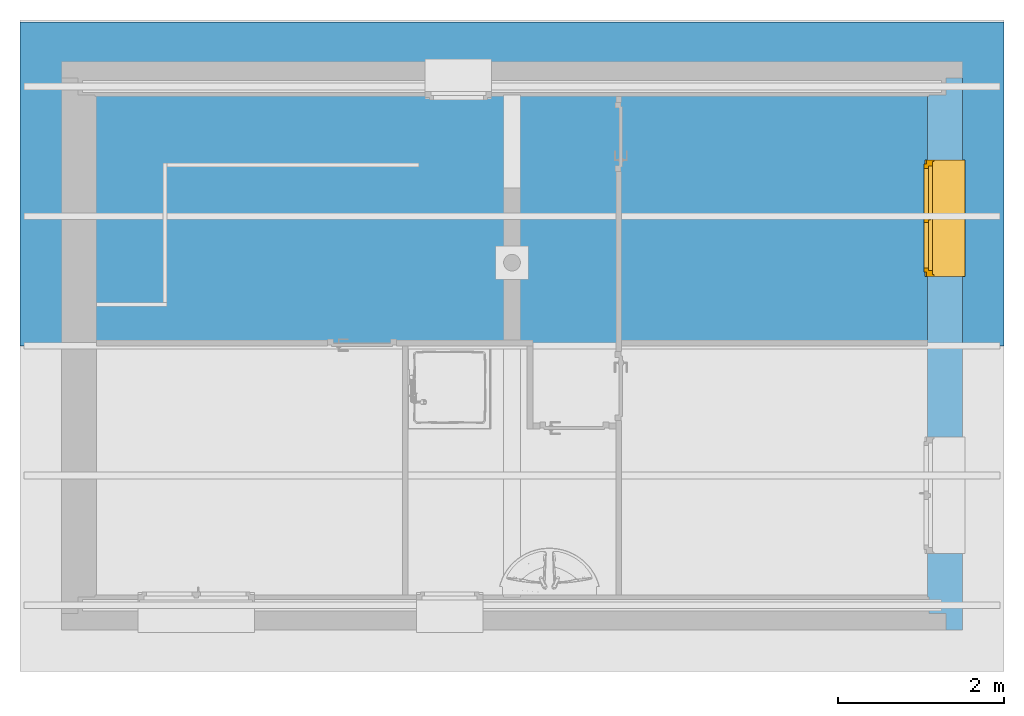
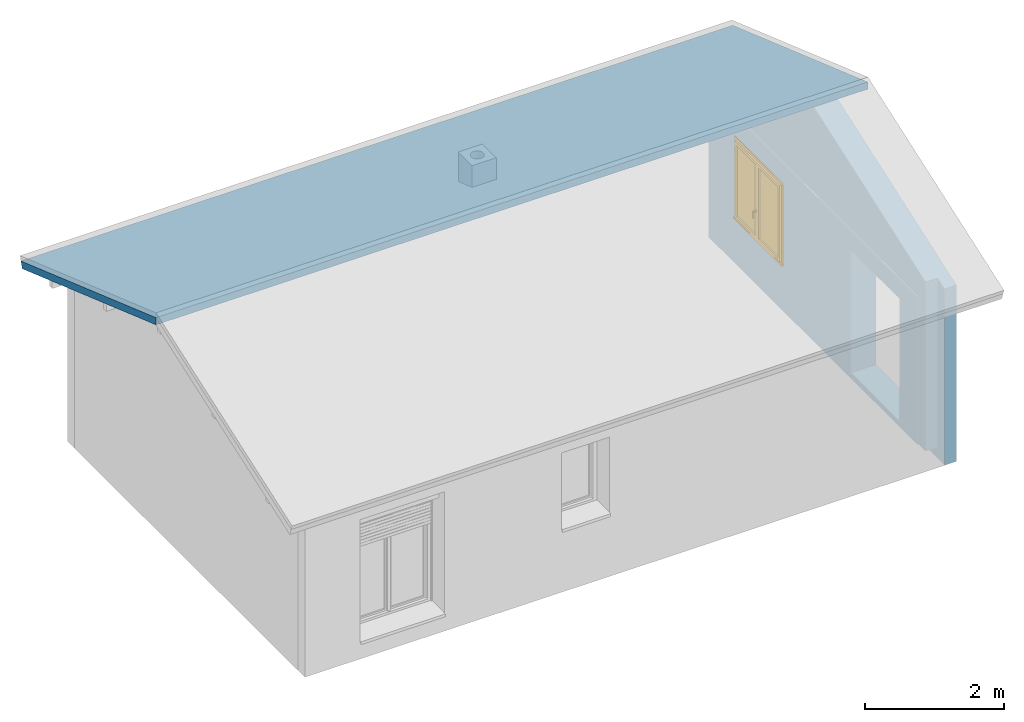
# One storey, part 7 of 7: 1 building element part, 1 window, 2 openings, 2 elements without a shape of their own, plus 1 element that does not belong to this part.
"""IFC4 building model written with IfcOpenShell, lengths in metres."""

from ifc_helpers import new_model, entity, si_unit, converted_unit, frame, origin, origin_with_axes, place, context, subcontext, project, spatial, polyline, outline, extrude, clip, bounded_halfspace, closed_shell, open_shell, faceted_brep, surface_model, source, transform, mapped, material, layer, layer_set, layer_usage, type_object, element, fill, aggregate, save


model = new_model("IFC4")

# Units and contexts
model_context = context("Model", 3, precision=1e-05, world=origin())
body_context = subcontext(model_context, "Body", "Model", "MODEL_VIEW")
ifc_project = project(units=[si_unit("LENGTHUNIT", "METRE"), si_unit("AREAUNIT", "SQUARE_METRE"), si_unit("VOLUMEUNIT", "CUBIC_METRE"), si_unit("MASSUNIT", "GRAM", prefix="KILO"), converted_unit("PLANEANGLEUNIT", "DEGREE", entity("IfcPlaneAngleMeasure", 0.0174532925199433), si_unit("PLANEANGLEUNIT", "RADIAN"), dimensions=[0, 0, 0, 0, 0, 0, 0])], contexts=[model_context])

# Building, storey
building_placement = place(None, origin())
building = spatial("IfcBuilding", under=ifc_project, at=building_placement, Name="Projet de Construction", CompositionType="ELEMENT")
storey_placement = place(building_placement, frame((0.0, 0.0, 2.8)))
storey = spatial("IfcBuildingStorey", under=building, at=storey_placement, Name="R+1", CompositionType="ELEMENT", Elevation=2.8)

# Wall, openings, window
ifc_material_1 = material()
ifc_layer_1 = layer(ifc_material_1, 0.2)
ifc_material_2 = material()
ifc_layer_2 = layer(ifc_material_2, 0.2)
ifc_material_3 = material()
ifc_layer_3 = layer(ifc_material_3, 0.02)
ifc_layer_set = layer_set([ifc_layer_1, ifc_layer_2, ifc_layer_3])
ifc_layer_usage = layer_usage(ifc_layer_set, "AXIS2", "POSITIVE", 0.0)
wall_placement = place(storey_placement, frame((3.5540625, 1.29979166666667, 0.0), z_axis=(0.0, 0.0, 1.0), x_axis=(2.05458140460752e-16, 1.0, 0.0)))
wall = element("IfcWall", 1, at=wall_placement, inside=storey, material=ifc_layer_usage, context=body_context, shape_type="Clipping", body=[
    clip(clip(clip(clip(extrude(outline(polyline([(8.62924189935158e-17, -0.42), (6.64, -0.42), (6.64, -0.22), (6.44, -0.22), (6.44, -0.02), (6.42, -0.02), (6.42, -4.52007909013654e-17), (0.4, 8.21832561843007e-17), (0.4, -0.0199999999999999), (0.2, -0.02), (0.2, -0.22), (4.52007909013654e-17, -0.22), (8.62924189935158e-17, -0.42)])), frame((-8.62924189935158e-17, 0.42, 0.0), z_axis=(0.0, 0.0, 1.0), x_axis=(1.0, 0.0, 0.0)), (0.0, 0.0, 1.0), 4.29700000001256), bounded_halfspace(frame((3.365, 0.355, 0.2), z_axis=(0.0, 0.0, 1.0), x_axis=(-2.05458140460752e-16, 1.0, 0.0)), True, origin_with_axes(), polyline([(6.44, 0.2), (6.44, 0.4), (6.42, 0.4), (6.42, 0.42), (0.4, 0.42), (0.4, 0.4), (0.199999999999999, 0.4), (0.2, 0.2), (6.44, 0.2)]))), bounded_halfspace(frame((5.5, 0.2, 3.56900000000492), z_axis=(-0.330350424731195, -1.50758855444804e-16, -0.943858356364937), x_axis=(0.943858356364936, 6.06261507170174e-17, -0.330350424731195)), True, origin_with_axes(), polyline([(3.42, -2.06827861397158e-16), (6.64, -2.01948391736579e-31), (6.64, 0.2), (6.44, 0.2), (6.44, 0.4), (3.42, 0.4), (3.42, -2.06827861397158e-16)]))), bounded_halfspace(frame((3.41, 0.41, 2.8), z_axis=(0.0, 0.0, -1.0), x_axis=(1.0, -2.11601407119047e-17, 0.0)), True, origin_with_axes(), polyline([(0.4, 0.4), (6.42, 0.4), (6.42, 0.42), (0.4, 0.42), (0.4, 0.4)]))), bounded_halfspace(frame((1.20666666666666, 0.2, 3.52233333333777), z_axis=(0.330350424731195, -2.44558932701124e-16, -0.943858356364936), x_axis=(2.05458140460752e-16, -1.0, 0.0)), True, origin_with_axes(), polyline([(-4.95838978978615e-16, 0.2), (-4.54747350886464e-16, 4.54747350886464e-16), (3.42, -2.06827861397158e-16), (3.42, 0.4), (0.199999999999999, 0.4), (0.2, 0.2), (-4.95838978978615e-16, 0.2)]))),
])
opening_1_placement = place(wall_placement, frame((2.32, 0.2, 0.3), z_axis=(0.0, -1.0, 0.0), x_axis=(0.0, 0.0, 1.0)))
element("IfcOpeningStandardCase", 2, at=opening_1_placement, cuts=wall, Name="Baie de porte", PredefinedType="OPENING", context=body_context, shape_type="SweptSolid", body=[
    extrude(outline(polyline([(0.0, 1.4), (2.15, 1.4), (2.15, 0.0), (0.0, 0.0), (0.0, 1.4)])), origin_with_axes(), (0.0, 0.0, 1.0), 0.2),
    extrude(outline(polyline([(0.0, 1.4), (2.15, 1.4), (2.15, 0.0), (0.0, 0.0), (0.0, 1.4)])), frame((0.0, 6.49639072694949e-17, -0.2), z_axis=(0.0, 0.0, 1.0), x_axis=(1.0, 0.0, 0.0)), (0.0, 0.0, 1.0), 0.2),
    extrude(outline(polyline([(0.0, 1.4), (2.15, 1.4), (2.15, 0.0), (0.0, 0.0), (0.0, 1.4)])), frame((0.0, 7.14602979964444e-17, -0.22), z_axis=(0.0, 0.0, 1.0), x_axis=(1.0, 0.0, 0.0)), (0.0, 0.0, 1.0), 0.02),
])
opening_2_placement = place(wall_placement, frame((5.655, 0.2, 1.0), z_axis=(0.0, -1.0, 0.0), x_axis=(0.0, 0.0, 1.0)))
opening_2 = element("IfcOpeningStandardCase", 3, at=opening_2_placement, cuts=wall, Name="Baie de fenêtre", PredefinedType="OPENING", context=body_context, shape_type="SweptSolid", body=[
    extrude(outline(polyline([(0.0, 1.4), (1.45, 1.4), (1.45, 0.0), (0.0, 0.0), (0.0, 1.4)])), origin_with_axes(), (0.0, 0.0, 1.0), 0.2),
    extrude(outline(polyline([(0.0, 1.4), (1.45, 1.4), (1.45, 0.0), (0.0, 0.0), (0.0, 1.4)])), frame((0.0, 6.49639072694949e-17, -0.2), z_axis=(0.0, 0.0, 1.0), x_axis=(1.0, 0.0, 0.0)), (0.0, 0.0, 1.0), 0.2),
    extrude(outline(polyline([(0.0, 1.4), (1.45, 1.4), (1.45, 0.0), (0.0, 0.0), (0.0, 1.4)])), frame((0.0, 7.14602979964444e-17, -0.22), z_axis=(0.0, 0.0, 1.0), x_axis=(1.0, 0.0, 0.0)), (0.0, 0.0, 1.0), 0.02),
])
ifc_material_4 = material()
window_type = type_object("IfcWindowType", Name="3 vantaux blanc, monté", ParameterTakesPrecedence=False, PartitioningType="DOUBLE_PANEL_VERTICAL", PredefinedType="WINDOW")
shared_shape = source(origin_with_axes(), body_context, "Body", "SurfaceModel", [
    surface_model("IfcShellBasedSurfaceModel", [(1.4, -0.37, 0.0), (1.4, -0.37, -0.03), (1.4, -0.39, -0.03), (1.4, -0.39, 0.02), (1.4, 4.54747350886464e-16, 0.03), (1.4, 4.54747350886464e-16, 0.0), (-9.09494701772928e-16, 0.0, 0.0), (-9.09494701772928e-16, 0.0, 0.03), (-9.09494701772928e-16, -0.39, 0.02), (-9.09494701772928e-16, -0.39, -0.03), (-9.09494701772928e-16, -0.37, -0.03), (-9.09494701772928e-16, -0.37, 0.0)], [closed_shell([[[0, 1, 2, 3, 4, 5]], [[6, 7, 8, 9, 10, 11]], [[5, 6, 11, 0]], [[4, 7, 6, 5]], [[3, 8, 7, 4]], [[2, 9, 8, 3]], [[1, 10, 9, 2]], [[0, 11, 10, 1]]], orient=[[False], [False], [False], [False], [False], [False], [False], [False]])]),
    surface_model("IfcShellBasedSurfaceModel", [(1.4, 0.0900000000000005, 0.0), (1.4, 0.0400000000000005, 0.0), (1.4, 0.0400000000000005, 0.03), (1.4, 0.0900000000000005, 0.03), (-9.09494701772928e-16, 0.04, 0.0), (-9.09494701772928e-16, 0.09, 0.0), (-9.09494701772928e-16, 0.09, 0.03), (-9.09494701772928e-16, 0.04, 0.03)], [closed_shell([[[0, 1, 2, 3]], [[4, 5, 6, 7]], [[1, 0, 5, 4]], [[2, 1, 4, 7]], [[3, 2, 7, 6]], [[0, 3, 6, 5]]], orient=[[False], [False], [False], [False], [False], [False]])]),
    surface_model("IfcShellBasedSurfaceModel", [(1.4, 4.54747350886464e-16, 1.45), (-9.09494701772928e-16, 4.54747350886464e-16, 1.45), (-9.09494701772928e-16, 4.54747350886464e-16, 1.25), (1.4, 4.54747350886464e-16, 1.25), (1.4, -0.2, 1.25), (-9.09494701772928e-16, -0.2, 1.25), (-9.09494701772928e-16, -0.2, 1.45), (1.4, -0.199999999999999, 1.45)], [closed_shell([[[0, 1, 2, 3]], [[4, 5, 6, 7]], [[3, 4, 7, 0]], [[2, 5, 4, 3]], [[1, 6, 5, 2]], [[0, 7, 6, 1]]], orient=[[False], [False], [False], [False], [False], [False]])]),
    surface_model("IfcShellBasedSurfaceModel", [(1.4, 4.54747350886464e-16, 1.25), (1.38, 4.54747350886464e-16, 1.25), (1.38, 4.54747350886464e-16, 0.0), (1.4, 4.54747350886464e-16, 0.0), (1.4, -0.0199999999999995, 0.0), (1.38, -0.0199999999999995, 0.0), (1.38, -0.0199999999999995, 1.25), (1.4, -0.0199999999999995, 1.25)], [closed_shell([[[0, 1, 2, 3]], [[4, 5, 6, 7]], [[3, 4, 7, 0]], [[2, 5, 4, 3]], [[1, 6, 5, 2]], [[0, 7, 6, 1]]], orient=[[False], [False], [False], [False], [False], [False]])]),
    surface_model("IfcShellBasedSurfaceModel", [(0.0199999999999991, 4.54747350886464e-16, 1.25), (-9.09494701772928e-16, 4.54747350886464e-16, 1.25), (-9.09494701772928e-16, 0.0, 0.0), (0.0199999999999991, 0.0, 0.0), (0.0199999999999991, -0.02, 0.0), (-9.09494701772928e-16, -0.02, 0.0), (-9.09494701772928e-16, -0.0199999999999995, 1.25), (0.0199999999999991, -0.0199999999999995, 1.25)], [closed_shell([[[0, 1, 2, 3]], [[4, 5, 6, 7]], [[3, 4, 7, 0]], [[2, 5, 4, 3]], [[1, 6, 5, 2]], [[0, 7, 6, 1]]], orient=[[False], [False], [False], [False], [False], [False]])]),
    surface_model("IfcShellBasedSurfaceModel", [(1.39, -0.00499999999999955, 1.245), (0.00999999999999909, -0.00499999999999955, 1.245), (0.00999999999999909, -0.00499999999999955, 1.195), (1.39, -0.00499999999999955, 1.195), (1.39, -0.0149999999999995, 1.195), (0.00999999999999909, -0.0149999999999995, 1.195), (0.00999999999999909, -0.0149999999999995, 1.245), (1.39, -0.0149999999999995, 1.245)], [closed_shell([[[0, 1, 2, 3]], [[4, 5, 6, 7]], [[3, 4, 7, 0]], [[2, 5, 4, 3]], [[1, 6, 5, 2]], [[0, 7, 6, 1]]], orient=[[False], [False], [False], [False], [False], [False]])]),
    surface_model("IfcShellBasedSurfaceModel", [(1.39, -0.00499999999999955, 1.19), (0.00999999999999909, -0.00499999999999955, 1.19), (0.00999999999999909, -0.00499999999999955, 1.14), (1.39, -0.00499999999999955, 1.14), (1.39, -0.0149999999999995, 1.14), (0.00999999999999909, -0.0149999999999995, 1.14), (0.00999999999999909, -0.0149999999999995, 1.19), (1.39, -0.0149999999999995, 1.19)], [closed_shell([[[0, 1, 2, 3]], [[4, 5, 6, 7]], [[3, 4, 7, 0]], [[2, 5, 4, 3]], [[1, 6, 5, 2]], [[0, 7, 6, 1]]], orient=[[False], [False], [False], [False], [False], [False]])]),
    surface_model("IfcShellBasedSurfaceModel", [(1.39, -0.00499999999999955, 1.135), (0.00999999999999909, -0.00499999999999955, 1.135), (0.00999999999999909, -0.00499999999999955, 1.085), (1.39, -0.00499999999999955, 1.085), (1.39, -0.0149999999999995, 1.085), (0.00999999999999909, -0.0149999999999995, 1.085), (0.00999999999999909, -0.0149999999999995, 1.135), (1.39, -0.0149999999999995, 1.135)], [closed_shell([[[0, 1, 2, 3]], [[4, 5, 6, 7]], [[3, 4, 7, 0]], [[2, 5, 4, 3]], [[1, 6, 5, 2]], [[0, 7, 6, 1]]], orient=[[False], [False], [False], [False], [False], [False]])]),
    surface_model("IfcShellBasedSurfaceModel", [(1.39, -0.00499999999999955, 1.08), (0.00999999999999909, -0.00499999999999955, 1.08), (0.00999999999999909, -0.00499999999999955, 1.03), (1.39, -0.00499999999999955, 1.03), (1.39, -0.0149999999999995, 1.03), (0.00999999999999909, -0.0149999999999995, 1.03), (0.00999999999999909, -0.0149999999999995, 1.08), (1.39, -0.0149999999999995, 1.08)], [closed_shell([[[0, 1, 2, 3]], [[4, 5, 6, 7]], [[3, 4, 7, 0]], [[2, 5, 4, 3]], [[1, 6, 5, 2]], [[0, 7, 6, 1]]], orient=[[False], [False], [False], [False], [False], [False]])]),
    surface_model("IfcShellBasedSurfaceModel", [(1.39, -0.00499999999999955, 1.025), (0.00999999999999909, -0.00499999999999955, 1.025), (0.00999999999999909, -0.00499999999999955, 0.975), (1.39, -0.00499999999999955, 0.975), (1.39, -0.0149999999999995, 0.975), (0.00999999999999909, -0.0149999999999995, 0.975), (0.00999999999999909, -0.0149999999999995, 1.025), (1.39, -0.0149999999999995, 1.025)], [closed_shell([[[0, 1, 2, 3]], [[4, 5, 6, 7]], [[3, 4, 7, 0]], [[2, 5, 4, 3]], [[1, 6, 5, 2]], [[0, 7, 6, 1]]], orient=[[False], [False], [False], [False], [False], [False]])]),
    surface_model("IfcShellBasedSurfaceModel", [(1.39, -0.00499999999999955, 0.97), (0.00999999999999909, -0.00499999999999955, 0.97), (0.00999999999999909, -0.00499999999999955, 0.92), (1.39, -0.00499999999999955, 0.92), (1.39, -0.0149999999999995, 0.92), (0.00999999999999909, -0.0149999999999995, 0.92), (0.00999999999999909, -0.0149999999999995, 0.97), (1.39, -0.0149999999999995, 0.97)], [closed_shell([[[0, 1, 2, 3]], [[4, 5, 6, 7]], [[3, 4, 7, 0]], [[2, 5, 4, 3]], [[1, 6, 5, 2]], [[0, 7, 6, 1]]], orient=[[False], [False], [False], [False], [False], [False]])]),
    surface_model("IfcShellBasedSurfaceModel", [(1.4, 0.0700000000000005, 1.45), (1.33, 0.0700000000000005, 1.45), (1.33, 0.0700000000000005, 0.0), (1.4, 0.0700000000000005, 0.0), (1.4, 4.54747350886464e-16, 0.0), (1.33, 4.54747350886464e-16, 0.0), (1.33, 4.54747350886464e-16, 1.45), (1.4, 4.54747350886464e-16, 1.45)], [closed_shell([[[0, 1, 2, 3]], [[4, 5, 6, 7]], [[3, 4, 7, 0]], [[2, 5, 4, 3]], [[1, 6, 5, 2]], [[0, 7, 6, 1]]], orient=[[False], [False], [False], [False], [False], [False]])]),
    surface_model("IfcShellBasedSurfaceModel", [(0.0699999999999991, 0.0700000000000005, 1.45), (-9.09494701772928e-16, 0.0700000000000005, 1.45), (-9.09494701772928e-16, 0.07, 0.0), (0.0699999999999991, 0.07, 0.0), (0.0699999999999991, 0.0, 0.0), (-9.09494701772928e-16, 0.0, 0.0), (-9.09494701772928e-16, 4.54747350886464e-16, 1.45), (0.0699999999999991, 4.54747350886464e-16, 1.45)], [closed_shell([[[0, 1, 2, 3]], [[4, 5, 6, 7]], [[3, 4, 7, 0]], [[2, 5, 4, 3]], [[1, 6, 5, 2]], [[0, 7, 6, 1]]], orient=[[False], [False], [False], [False], [False], [False]])]),
    surface_model("IfcShellBasedSurfaceModel", [(1.33, 0.0700000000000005, 0.07), (0.0699999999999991, 0.07, 0.07), (0.0699999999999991, 0.07, 0.0), (1.33, 0.0700000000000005, 0.0), (1.33, 4.54747350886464e-16, 0.0), (0.0699999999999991, 0.0, 0.0), (0.0699999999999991, 0.0, 0.07), (1.33, 4.54747350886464e-16, 0.07)], [closed_shell([[[0, 1, 2, 3]], [[4, 5, 6, 7]], [[3, 4, 7, 0]], [[2, 5, 4, 3]], [[1, 6, 5, 2]], [[0, 7, 6, 1]]], orient=[[False], [False], [False], [False], [False], [False]])]),
    surface_model("IfcShellBasedSurfaceModel", [(1.33, 0.0700000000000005, 1.45), (0.0699999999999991, 0.0700000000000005, 1.45), (0.0699999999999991, 0.0700000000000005, 1.38), (1.33, 0.0700000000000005, 1.38), (1.33, 4.54747350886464e-16, 1.38), (0.0699999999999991, 4.54747350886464e-16, 1.38), (0.0699999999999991, 4.54747350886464e-16, 1.45), (1.33, 4.54747350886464e-16, 1.45)], [closed_shell([[[0, 1, 2, 3]], [[4, 5, 6, 7]], [[3, 4, 7, 0]], [[2, 5, 4, 3]], [[1, 6, 5, 2]], [[0, 7, 6, 1]]], orient=[[False], [False], [False], [False], [False], [False]])]),
    surface_model("IfcShellBasedSurfaceModel", [(1.35, 0.1, 1.4), (1.3, 0.1, 1.4), (1.3, 0.1, 0.05), (1.35, 0.1, 0.05), (1.35, 0.0500000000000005, 0.05), (1.3, 0.0500000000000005, 0.05), (1.3, 0.0500000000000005, 1.4), (1.35, 0.0500000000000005, 1.4)], [closed_shell([[[0, 1, 2, 3]], [[4, 5, 6, 7]], [[3, 4, 7, 0]], [[2, 5, 4, 3]], [[1, 6, 5, 2]], [[0, 7, 6, 1]]], orient=[[False], [False], [False], [False], [False], [False]])]),
    surface_model("IfcShellBasedSurfaceModel", [(0.750499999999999, 0.100000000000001, 1.4), (0.700499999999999, 0.1, 1.4), (0.700499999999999, 0.1, 0.05), (0.750499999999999, 0.1, 0.05), (0.750499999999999, 0.0500000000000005, 0.05), (0.700499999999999, 0.05, 0.05), (0.700499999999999, 0.0500000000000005, 1.4), (0.750499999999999, 0.0500000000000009, 1.4)], [closed_shell([[[0, 1, 2, 3]], [[4, 5, 6, 7]], [[3, 4, 7, 0]], [[2, 5, 4, 3]], [[1, 6, 5, 2]], [[0, 7, 6, 1]]], orient=[[False], [False], [False], [False], [False], [False]])]),
    surface_model("IfcShellBasedSurfaceModel", [(1.3, 0.1, 0.1), (0.750499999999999, 0.1, 0.1), (0.750499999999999, 0.1, 0.05), (1.3, 0.1, 0.05), (1.3, 0.0500000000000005, 0.05), (0.750499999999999, 0.0500000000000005, 0.05), (0.750499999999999, 0.0500000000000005, 0.1), (1.3, 0.0500000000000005, 0.1)], [closed_shell([[[0, 1, 2, 3]], [[4, 5, 6, 7]], [[3, 4, 7, 0]], [[2, 5, 4, 3]], [[1, 6, 5, 2]], [[0, 7, 6, 1]]], orient=[[False], [False], [False], [False], [False], [False]])]),
    surface_model("IfcShellBasedSurfaceModel", [(1.3, 0.1, 1.4), (0.750499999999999, 0.100000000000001, 1.4), (0.750499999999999, 0.100000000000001, 1.35), (1.3, 0.1, 1.35), (1.3, 0.0500000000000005, 1.35), (0.750499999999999, 0.0500000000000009, 1.35), (0.750499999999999, 0.0500000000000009, 1.4), (1.3, 0.0500000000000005, 1.4)], [closed_shell([[[0, 1, 2, 3]], [[4, 5, 6, 7]], [[3, 4, 7, 0]], [[2, 5, 4, 3]], [[1, 6, 5, 2]], [[0, 7, 6, 1]]], orient=[[False], [False], [False], [False], [False], [False]])]),
    surface_model("IfcShellBasedSurfaceModel", [(0.725499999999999, 0.0500000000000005, 1.38), (0.675499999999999, 0.0500000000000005, 1.38), (0.675499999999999, 0.05, 0.07), (0.725499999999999, 0.05, 0.07), (0.725499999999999, 0.025, 0.07), (0.675499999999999, 0.025, 0.07), (0.675499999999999, 0.0250000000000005, 1.38), (0.725499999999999, 0.0250000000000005, 1.38)], [closed_shell([[[0, 1, 2, 3]], [[4, 5, 6, 7]], [[3, 4, 7, 0]], [[2, 5, 4, 3]], [[1, 6, 5, 2]], [[0, 7, 6, 1]]], orient=[[False], [False], [False], [False], [False], [False]])]),
    surface_model("IfcShellBasedSurfaceModel", [(0.737999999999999, 0.1, 0.57), (0.737999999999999, 0.1, 0.53), (0.712999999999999, 0.1, 0.53), (0.712999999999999, 0.1, 0.57), (0.737999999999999, 0.11, 0.53), (0.737999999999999, 0.11, 0.57), (0.712999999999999, 0.11, 0.57), (0.712999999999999, 0.11, 0.53)], [closed_shell([[[0, 1, 2, 3]], [[4, 5, 6, 7]], [[1, 0, 5, 4]], [[2, 1, 4, 7]], [[3, 2, 7, 6]], [[0, 3, 6, 5]]], orient=[[False], [False], [False], [False], [False], [False]])]),
    surface_model("IfcShellBasedSurfaceModel", [(0.715499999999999, 0.11, 0.55), (0.716839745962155, 0.11, 0.555), (0.720499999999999, 0.11, 0.558660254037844), (0.725499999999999, 0.11, 0.56), (0.730499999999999, 0.11, 0.558660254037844), (0.734160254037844, 0.11, 0.555), (0.735499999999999, 0.11, 0.55), (0.734160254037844, 0.11, 0.545), (0.730499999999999, 0.11, 0.541339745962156), (0.725499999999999, 0.11, 0.54), (0.720499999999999, 0.11, 0.541339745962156), (0.716839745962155, 0.11, 0.545), (0.715499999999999, 0.15, 0.55), (0.716839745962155, 0.155, 0.555), (0.720499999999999, 0.158660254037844, 0.558660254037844), (0.725499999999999, 0.16, 0.56), (0.730499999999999, 0.158660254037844, 0.558660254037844), (0.734160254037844, 0.155, 0.555), (0.735499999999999, 0.15, 0.55), (0.734160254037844, 0.145, 0.545), (0.730499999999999, 0.141339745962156, 0.541339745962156), (0.725499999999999, 0.14, 0.54), (0.720499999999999, 0.141339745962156, 0.541339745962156), (0.716839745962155, 0.145, 0.545), (0.715499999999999, 0.15, 0.435), (0.716839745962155, 0.145, 0.435), (0.720499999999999, 0.141339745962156, 0.435), (0.725499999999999, 0.14, 0.435), (0.730499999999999, 0.141339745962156, 0.435), (0.734160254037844, 0.145, 0.435), (0.735499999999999, 0.15, 0.435), (0.734160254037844, 0.155, 0.435), (0.730499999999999, 0.158660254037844, 0.435), (0.725499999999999, 0.16, 0.435), (0.720499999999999, 0.158660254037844, 0.435), (0.716839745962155, 0.155, 0.435)], [closed_shell([[[0, 1, 2, 3, 4, 5, 6, 7, 8, 9, 10, 11]], [[0, 12, 13, 1]], [[1, 13, 14, 2]], [[2, 14, 15, 3]], [[3, 15, 16, 4]], [[4, 16, 17, 5]], [[5, 17, 18, 6]], [[6, 18, 19, 7]], [[7, 19, 20, 8]], [[8, 20, 21, 9]], [[9, 21, 22, 10]], [[10, 22, 23, 11]], [[11, 23, 12, 0]], [[24, 25, 26, 27, 28, 29, 30, 31, 32, 33, 34, 35]], [[12, 24, 35, 13]], [[13, 35, 34, 14]], [[14, 34, 33, 15]], [[15, 33, 32, 16]], [[16, 32, 31, 17]], [[17, 31, 30, 18]], [[18, 30, 29, 19]], [[19, 29, 28, 20]], [[20, 28, 27, 21]], [[21, 27, 26, 22]], [[22, 26, 25, 23]], [[23, 25, 24, 12]]], orient=[[False], [False], [False], [False], [False], [False], [False], [False], [False], [False], [False], [False], [False], [False], [False], [False], [False], [False], [False], [False], [False], [False], [False], [False], [False], [False]])]),
    surface_model("IfcShellBasedSurfaceModel", [(0.699499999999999, 0.1, 1.4), (0.649499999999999, 0.1, 1.4), (0.649499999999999, 0.1, 0.05), (0.699499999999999, 0.1, 0.05), (0.699499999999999, 0.05, 0.05), (0.649499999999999, 0.05, 0.05), (0.649499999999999, 0.0500000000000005, 1.4), (0.699499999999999, 0.0500000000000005, 1.4)], [closed_shell([[[0, 1, 2, 3]], [[4, 5, 6, 7]], [[3, 4, 7, 0]], [[2, 5, 4, 3]], [[1, 6, 5, 2]], [[0, 7, 6, 1]]], orient=[[False], [False], [False], [False], [False], [False]])]),
    surface_model("IfcShellBasedSurfaceModel", [(0.0999999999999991, 0.1, 1.4), (0.0499999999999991, 0.1, 1.4), (0.0499999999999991, 0.1, 0.05), (0.0999999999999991, 0.1, 0.05), (0.0999999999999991, 0.05, 0.05), (0.0499999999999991, 0.05, 0.05), (0.0499999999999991, 0.0500000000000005, 1.4), (0.0999999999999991, 0.0500000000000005, 1.4)], [closed_shell([[[0, 1, 2, 3]], [[4, 5, 6, 7]], [[3, 4, 7, 0]], [[2, 5, 4, 3]], [[1, 6, 5, 2]], [[0, 7, 6, 1]]], orient=[[False], [False], [False], [False], [False], [False]])]),
    surface_model("IfcShellBasedSurfaceModel", [(0.649499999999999, 0.1, 0.1), (0.0999999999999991, 0.1, 0.1), (0.0999999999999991, 0.1, 0.05), (0.649499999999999, 0.1, 0.05), (0.649499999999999, 0.05, 0.05), (0.0999999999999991, 0.05, 0.05), (0.0999999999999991, 0.05, 0.1), (0.649499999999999, 0.05, 0.1)], [closed_shell([[[0, 1, 2, 3]], [[4, 5, 6, 7]], [[3, 4, 7, 0]], [[2, 5, 4, 3]], [[1, 6, 5, 2]], [[0, 7, 6, 1]]], orient=[[False], [False], [False], [False], [False], [False]])]),
    surface_model("IfcShellBasedSurfaceModel", [(0.649499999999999, 0.1, 1.4), (0.0999999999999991, 0.1, 1.4), (0.0999999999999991, 0.1, 1.35), (0.649499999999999, 0.1, 1.35), (0.649499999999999, 0.0500000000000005, 1.35), (0.0999999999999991, 0.0500000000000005, 1.35), (0.0999999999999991, 0.0500000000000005, 1.4), (0.649499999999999, 0.0500000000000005, 1.4)], [closed_shell([[[0, 1, 2, 3]], [[4, 5, 6, 7]], [[3, 4, 7, 0]], [[2, 5, 4, 3]], [[1, 6, 5, 2]], [[0, 7, 6, 1]]], orient=[[False], [False], [False], [False], [False], [False]])]),
    surface_model("IfcShellBasedSurfaceModel", [(1.3, 0.0750000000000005, 0.1), (1.3, 0.0750000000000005, 1.35), (0.750499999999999, 0.0750000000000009, 1.35), (0.750499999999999, 0.0750000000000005, 0.1)], [open_shell([[[0, 1, 2, 3]]], orient=[[False]])]),
    surface_model("IfcShellBasedSurfaceModel", [(0.649499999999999, 0.075, 0.1), (0.649499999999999, 0.0750000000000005, 1.35), (0.0999999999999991, 0.0750000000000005, 1.35), (0.0999999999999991, 0.075, 0.1)], [open_shell([[[0, 1, 2, 3]]], orient=[[False]])]),
])
window_placement = place(opening_2_placement, frame((0.0, 1.4, -0.16), z_axis=(1.0, 0.0, 0.0), x_axis=(0.0, -1.0, 1.19361395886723e-16)))
window = element("IfcWindow", 4, at=window_placement, inside=storey, type_object=window_type, material=ifc_material_4, Name="3 vantaux blanc, monté", OverallHeight=1.45, OverallWidth=1.4, context=body_context, shape_type="MappedRepresentation", body=[
    mapped(shared_shape, transform((0.0, 0.0, 0.0), x_axis=(1.0, 0.0, 0.0), y_axis=(0.0, 1.0, 0.0), z_axis=(0.0, 0.0, 1.0), scale=1.0)),
])
fill(opening_2, window)

# Roof, slab, building element part
roof_placement = place(storey_placement, frame((0.0, 0.0, -2.8)))
roof = element("IfcRoof", 5, at=roof_placement, inside=storey, PredefinedType="NOTDEFINED")
ifc_material_5 = material()
slab_placement = place(roof_placement, origin())
slab = element("IfcSlab", 6, at=slab_placement, material=ifc_material_5, PredefinedType="ROOF")
aggregate(roof, [slab])
ifc_material_6 = material()
building_element_part_placement = place(storey_placement, frame((0.0, 0.0, -2.8)))
building_element_part = element("IfcBuildingElementPart", 7, at=building_element_part_placement, material=ifc_material_6, context=body_context, shape_type="Brep", body=[
    faceted_brep([(-7.7859375, 4.71979166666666, 7.09700000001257), (4.0540625, 4.71979166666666, 7.09700000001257), (4.0540625, 8.57372158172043, 5.74812452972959), (-7.7859375, 8.57372158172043, 5.74812452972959), (-7.7859375, 4.71979166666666, 7.22413772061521), (-7.7859375, 8.61336363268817, 5.86138753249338), (4.0540625, 8.61336363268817, 5.86138753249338), (4.0540625, 4.71979166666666, 7.22413772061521)], [[[0, 1, 2, 3]], [[4, 5, 6, 7]], [[4, 7, 1, 0]], [[7, 6, 2, 1]], [[6, 5, 3, 2]], [[5, 4, 0, 3]]], orient=[[False], [False], [False], [False], [False], [False]]),
])
aggregate(slab, [building_element_part])

save(model, "model.ifc")
